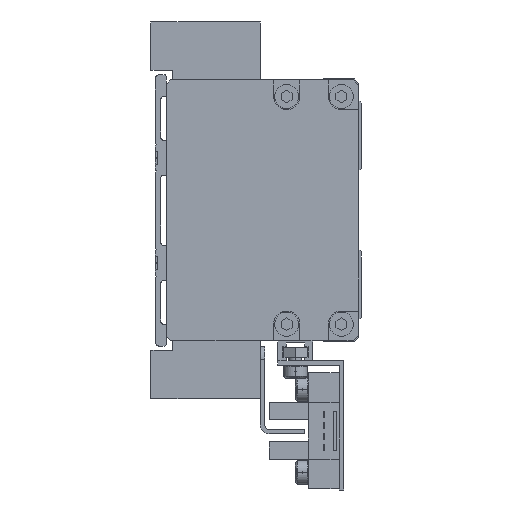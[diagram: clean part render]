
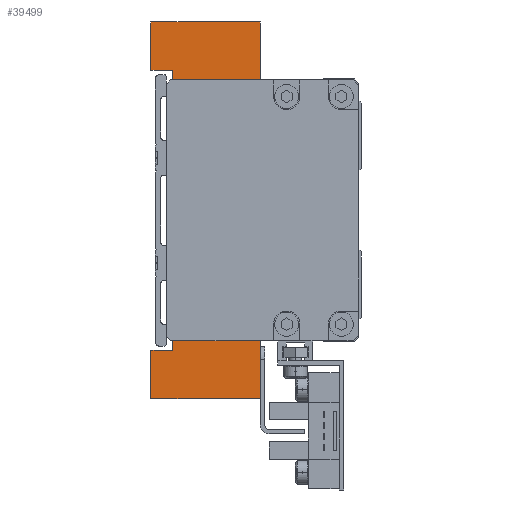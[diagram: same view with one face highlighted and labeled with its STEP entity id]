
A CAD part, left-side view. The second image highlights one B-rep face of the part: STEP entity #39499.
In plain terms, the highlighted planar face has unit normal (-1, 0, 0).
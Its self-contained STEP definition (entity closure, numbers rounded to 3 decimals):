
#229 = EDGE_CURVE ( 'NONE', #32711, #11134, #25332, .T. ) ;
#320 = LINE ( 'NONE', #25056, #14119 ) ;
#432 = ORIENTED_EDGE ( 'NONE', *, *, #24551, .F. ) ;
#593 = LINE ( 'NONE', #714, #36732 ) ;
#714 = CARTESIAN_POINT ( 'NONE',  ( -77., 0., -43. ) ) ;
#854 = EDGE_CURVE ( 'NONE', #26939, #14456, #13643, .T. ) ;
#1242 = LINE ( 'NONE', #9686, #37395 ) ;
#2107 = VECTOR ( 'NONE', #23443, 1000. ) ;
#2331 = CARTESIAN_POINT ( 'NONE',  ( -77., 0., -28. ) ) ;
#2631 = VERTEX_POINT ( 'NONE', #32580 ) ;
#3927 = CARTESIAN_POINT ( 'NONE',  ( -77., 0., 28. ) ) ;
#4212 = VERTEX_POINT ( 'NONE', #29740 ) ;
#4339 = EDGE_CURVE ( 'NONE', #14456, #11752, #593, .T. ) ;
#4803 = CARTESIAN_POINT ( 'NONE',  ( -77., 25., 43. ) ) ;
#5445 = VERTEX_POINT ( 'NONE', #11089 ) ;
#5847 = ORIENTED_EDGE ( 'NONE', *, *, #17773, .F. ) ;
#5946 = VECTOR ( 'NONE', #32538, 1000. ) ;
#6221 = LINE ( 'NONE', #37340, #18434 ) ;
#6653 = ORIENTED_EDGE ( 'NONE', *, *, #19523, .F. ) ;
#7590 = ORIENTED_EDGE ( 'NONE', *, *, #12497, .T. ) ;
#7748 = CARTESIAN_POINT ( 'NONE',  ( -77., 9., -21. ) ) ;
#7764 = DIRECTION ( 'NONE',  ( 0., -1., 0. ) ) ;
#8670 = EDGE_CURVE ( 'NONE', #2631, #40708, #19931, .T. ) ;
#9173 = PLANE ( 'NONE',  #22841 ) ;
#9686 = CARTESIAN_POINT ( 'NONE',  ( -77., 10., 21. ) ) ;
#9747 = CARTESIAN_POINT ( 'NONE',  ( -77., 10., 0. ) ) ;
#9800 = VECTOR ( 'NONE', #11824, 1000. ) ;
#10161 = VERTEX_POINT ( 'NONE', #13719 ) ;
#10218 = VERTEX_POINT ( 'NONE', #30029 ) ;
#10329 = VERTEX_POINT ( 'NONE', #11842 ) ;
#10449 = EDGE_CURVE ( 'NONE', #10218, #10329, #20288, .T. ) ;
#10900 = DIRECTION ( 'NONE',  ( 0., 0., -1. ) ) ;
#11089 = CARTESIAN_POINT ( 'NONE',  ( -77., 10., 21. ) ) ;
#11134 = VERTEX_POINT ( 'NONE', #3927 ) ;
#11137 = VECTOR ( 'NONE', #30155, 1000. ) ;
#11413 = VERTEX_POINT ( 'NONE', #15733 ) ;
#11431 = EDGE_CURVE ( 'NONE', #16136, #40708, #320, .T. ) ;
#11752 = VERTEX_POINT ( 'NONE', #29475 ) ;
#11824 = DIRECTION ( 'NONE',  ( 0., 0., -1. ) ) ;
#11842 = CARTESIAN_POINT ( 'NONE',  ( -77., 20., -32. ) ) ;
#11971 = ORIENTED_EDGE ( 'NONE', *, *, #26183, .F. ) ;
#12226 = VECTOR ( 'NONE', #37837, 1000. ) ;
#12497 = EDGE_CURVE ( 'NONE', #11413, #10161, #33016, .T. ) ;
#13113 = LINE ( 'NONE', #36372, #5946 ) ;
#13198 = VECTOR ( 'NONE', #25443, 1000. ) ;
#13283 = DIRECTION ( 'NONE',  ( 0., 0., 1. ) ) ;
#13643 = LINE ( 'NONE', #2331, #30373 ) ;
#13719 = CARTESIAN_POINT ( 'NONE',  ( -77., 10., -21. ) ) ;
#13720 = DIRECTION ( 'NONE',  ( 0., 1., 0. ) ) ;
#14119 = VECTOR ( 'NONE', #35167, 1000. ) ;
#14456 = VERTEX_POINT ( 'NONE', #16735 ) ;
#14947 = LINE ( 'NONE', #27223, #31172 ) ;
#15237 = EDGE_CURVE ( 'NONE', #11752, #10218, #35830, .T. ) ;
#15733 = CARTESIAN_POINT ( 'NONE',  ( -77., 9., -21. ) ) ;
#16136 = VERTEX_POINT ( 'NONE', #40997 ) ;
#16695 = ORIENTED_EDGE ( 'NONE', *, *, #38718, .F. ) ;
#16735 = CARTESIAN_POINT ( 'NONE',  ( -77., 0., -43. ) ) ;
#17025 = CARTESIAN_POINT ( 'NONE',  ( -77., 5., -21. ) ) ;
#17213 = CARTESIAN_POINT ( 'NONE',  ( -77., 9., -21. ) ) ;
#17505 = FACE_OUTER_BOUND ( 'NONE', #22052, .T. ) ;
#17773 = EDGE_CURVE ( 'NONE', #10329, #41329, #27428, .T. ) ;
#17903 = CARTESIAN_POINT ( 'NONE',  ( -77., 5., -28. ) ) ;
#18434 = VECTOR ( 'NONE', #34323, 1000. ) ;
#18940 = CARTESIAN_POINT ( 'NONE',  ( -77., 0., -28. ) ) ;
#18963 = LINE ( 'NONE', #33416, #2107 ) ;
#19395 = LINE ( 'NONE', #17903, #31570 ) ;
#19523 = EDGE_CURVE ( 'NONE', #35872, #26939, #19395, .T. ) ;
#19931 = LINE ( 'NONE', #27841, #9800 ) ;
#20288 = LINE ( 'NONE', #35123, #13198 ) ;
#20931 = CARTESIAN_POINT ( 'NONE',  ( -77., 5., -28. ) ) ;
#21424 = ORIENTED_EDGE ( 'NONE', *, *, #36707, .F. ) ;
#21836 = LINE ( 'NONE', #17025, #24879 ) ;
#21939 = DIRECTION ( 'NONE',  ( 0., 0., -1. ) ) ;
#22034 = EDGE_CURVE ( 'NONE', #11134, #2631, #13113, .T. ) ;
#22052 = EDGE_LOOP ( 'NONE', ( #35275, #22866, #23876, #24930, #36546, #432, #21424, #34695, #5847, #25691, #22464, #30605, #41802, #6653, #11971, #37245, #7590, #16695 ) ) ;
#22464 = ORIENTED_EDGE ( 'NONE', *, *, #15237, .F. ) ;
#22841 = AXIS2_PLACEMENT_3D ( 'NONE', #9747, #38895, #32326 ) ;
#22866 = ORIENTED_EDGE ( 'NONE', *, *, #11431, .T. ) ;
#23443 = DIRECTION ( 'NONE',  ( 0., 0., 1. ) ) ;
#23876 = ORIENTED_EDGE ( 'NONE', *, *, #8670, .F. ) ;
#24366 = EDGE_CURVE ( 'NONE', #5445, #16136, #14947, .T. ) ;
#24417 = CARTESIAN_POINT ( 'NONE',  ( -77., 20., 32. ) ) ;
#24457 = DIRECTION ( 'NONE',  ( 0., -1., 0. ) ) ;
#24531 = LINE ( 'NONE', #26455, #41962 ) ;
#24551 = EDGE_CURVE ( 'NONE', #34892, #32711, #6221, .T. ) ;
#24804 = VECTOR ( 'NONE', #24457, 1000. ) ;
#24879 = VECTOR ( 'NONE', #10900, 1000. ) ;
#24930 = ORIENTED_EDGE ( 'NONE', *, *, #22034, .F. ) ;
#25056 = CARTESIAN_POINT ( 'NONE',  ( -77., 9., 21. ) ) ;
#25066 = CARTESIAN_POINT ( 'NONE',  ( -77., 25., 32. ) ) ;
#25332 = LINE ( 'NONE', #33682, #11137 ) ;
#25443 = DIRECTION ( 'NONE',  ( 0., -1., 0. ) ) ;
#25573 = VERTEX_POINT ( 'NONE', #25066 ) ;
#25691 = ORIENTED_EDGE ( 'NONE', *, *, #10449, .F. ) ;
#25862 = VECTOR ( 'NONE', #40919, 1000. ) ;
#26183 = EDGE_CURVE ( 'NONE', #4212, #35872, #21836, .T. ) ;
#26455 = CARTESIAN_POINT ( 'NONE',  ( -77., 20., 32. ) ) ;
#26939 = VERTEX_POINT ( 'NONE', #18940 ) ;
#27223 = CARTESIAN_POINT ( 'NONE',  ( -77., 10., 21. ) ) ;
#27300 = CARTESIAN_POINT ( 'NONE',  ( -77., 25., -43. ) ) ;
#27428 = LINE ( 'NONE', #34517, #12226 ) ;
#27841 = CARTESIAN_POINT ( 'NONE',  ( -77., 5., 28. ) ) ;
#27890 = EDGE_CURVE ( 'NONE', #11413, #4212, #33484, .T. ) ;
#29475 = CARTESIAN_POINT ( 'NONE',  ( -77., 25., -43. ) ) ;
#29740 = CARTESIAN_POINT ( 'NONE',  ( -77., 5., -21. ) ) ;
#30029 = CARTESIAN_POINT ( 'NONE',  ( -77., 25., -32. ) ) ;
#30155 = DIRECTION ( 'NONE',  ( 0., 0., -1. ) ) ;
#30373 = VECTOR ( 'NONE', #21939, 1000. ) ;
#30405 = DIRECTION ( 'NONE',  ( 0., -1., 0. ) ) ;
#30605 = ORIENTED_EDGE ( 'NONE', *, *, #4339, .F. ) ;
#31172 = VECTOR ( 'NONE', #7764, 1000. ) ;
#31570 = VECTOR ( 'NONE', #30405, 1000. ) ;
#32326 = DIRECTION ( 'NONE',  ( 0., 0., -1. ) ) ;
#32538 = DIRECTION ( 'NONE',  ( 0., 1., 0. ) ) ;
#32580 = CARTESIAN_POINT ( 'NONE',  ( -77., 5., 28. ) ) ;
#32711 = VERTEX_POINT ( 'NONE', #38088 ) ;
#32825 = DIRECTION ( 'NONE',  ( 0., 0., -1. ) ) ;
#33016 = LINE ( 'NONE', #17213, #25862 ) ;
#33416 = CARTESIAN_POINT ( 'NONE',  ( -77., 25., 32. ) ) ;
#33484 = LINE ( 'NONE', #7748, #24804 ) ;
#33682 = CARTESIAN_POINT ( 'NONE',  ( -77., 0., 43. ) ) ;
#34323 = DIRECTION ( 'NONE',  ( 0., -1., 0. ) ) ;
#34517 = CARTESIAN_POINT ( 'NONE',  ( -77., 20., -32. ) ) ;
#34695 = ORIENTED_EDGE ( 'NONE', *, *, #39657, .F. ) ;
#34892 = VERTEX_POINT ( 'NONE', #4803 ) ;
#35123 = CARTESIAN_POINT ( 'NONE',  ( -77., 25., -32. ) ) ;
#35167 = DIRECTION ( 'NONE',  ( 0., -1., 0. ) ) ;
#35275 = ORIENTED_EDGE ( 'NONE', *, *, #24366, .T. ) ;
#35830 = LINE ( 'NONE', #27300, #39404 ) ;
#35872 = VERTEX_POINT ( 'NONE', #20931 ) ;
#36372 = CARTESIAN_POINT ( 'NONE',  ( -77., 0., 28. ) ) ;
#36546 = ORIENTED_EDGE ( 'NONE', *, *, #229, .F. ) ;
#36707 = EDGE_CURVE ( 'NONE', #25573, #34892, #18963, .T. ) ;
#36732 = VECTOR ( 'NONE', #36844, 1000. ) ;
#36844 = DIRECTION ( 'NONE',  ( 0., 1., 0. ) ) ;
#37245 = ORIENTED_EDGE ( 'NONE', *, *, #27890, .F. ) ;
#37340 = CARTESIAN_POINT ( 'NONE',  ( -77., 25., 43. ) ) ;
#37395 = VECTOR ( 'NONE', #32825, 1000. ) ;
#37837 = DIRECTION ( 'NONE',  ( 0., 0., 1. ) ) ;
#38088 = CARTESIAN_POINT ( 'NONE',  ( -77., 0., 43. ) ) ;
#38718 = EDGE_CURVE ( 'NONE', #5445, #10161, #1242, .T. ) ;
#38895 = DIRECTION ( 'NONE',  ( 1., 0., 0. ) ) ;
#39404 = VECTOR ( 'NONE', #13283, 1000. ) ;
#39499 = ADVANCED_FACE ( 'NONE', ( #17505 ), #9173, .F. ) ;
#39657 = EDGE_CURVE ( 'NONE', #41329, #25573, #24531, .T. ) ;
#39812 = CARTESIAN_POINT ( 'NONE',  ( -77., 5., 21. ) ) ;
#40708 = VERTEX_POINT ( 'NONE', #39812 ) ;
#40919 = DIRECTION ( 'NONE',  ( 0., 1., 0. ) ) ;
#40997 = CARTESIAN_POINT ( 'NONE',  ( -77., 9., 21. ) ) ;
#41329 = VERTEX_POINT ( 'NONE', #24417 ) ;
#41802 = ORIENTED_EDGE ( 'NONE', *, *, #854, .F. ) ;
#41962 = VECTOR ( 'NONE', #13720, 1000. ) ;
